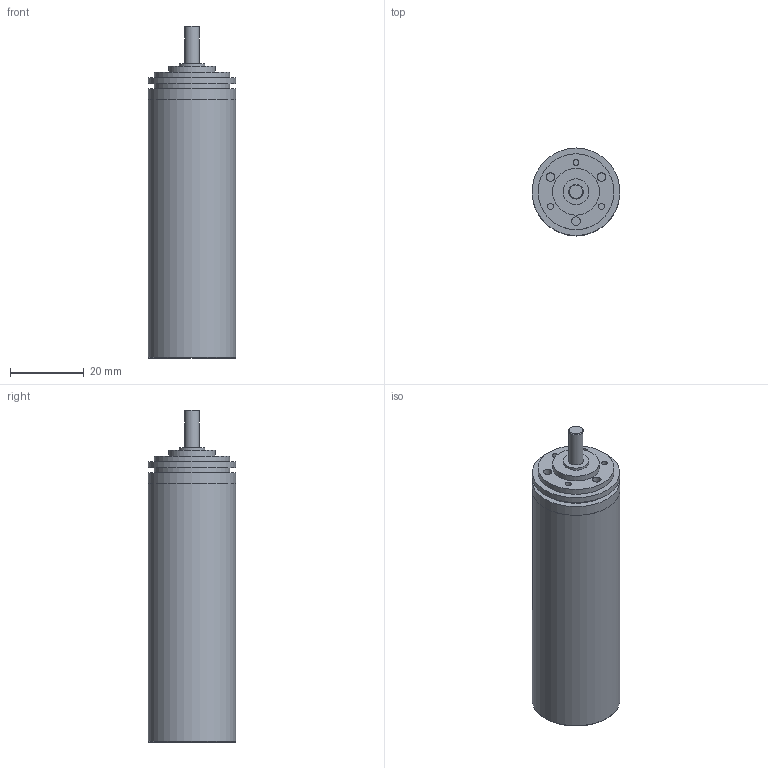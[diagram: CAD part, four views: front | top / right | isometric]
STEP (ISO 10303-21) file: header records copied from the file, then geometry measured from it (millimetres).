
FILE_DESCRIPTION(/* description */ (''),/* implementation_level */ '2;1');
FILE_NAME(/* name */ '22-2K_13.stp',/* time_stamp */ '2016-08-26T11:42:12+02:00',/* author */ ('DR. FRITZ FAULHABER GmbH & Co. KG'),/* organization */ ('DR. FRITZ FAULHABER GmbH & Co. KG'),/* preprocessor_version */ 'ST-DEVELOPER v16',/* originating_system */ 'SIEMENS PLM Software NX 10.0',/* authorisation */ '');
FILE_SCHEMA (('AUTOMOTIVE_DESIGN { 1 0 10303 214 3 1 1 1 }'));
Length unit declared in the file: millimetre
Products named in the file (1): H00000872_A
Bounding box: 23.8 x 23.8 x 90.2 mm (x, y, z)
Volume: 26667.8 mm3; surface area: 8770.7 mm2
Topology: 1 solids, 1 shells, 42 faces, 65 edges, 43 vertices
Faces by surface type: plane 20, cylinder 19, cone 3
Full cylindrical faces by diameter (mm): 1.6 x3, 2.329 x3, 3.5 x1, 4 x1, 4.5 x1, 7 x2, 12.7 x1, 20.63 x2, 22 x1, 23.79 x1, 23.8 x3
Entity records: 858 total; most frequent: DIRECTION 168, CARTESIAN_POINT 125, AXIS2_PLACEMENT_3D 84, EDGE_LOOP 82, ORIENTED_EDGE 82, FACE_BOUND 74, ADVANCED_FACE 42, VERTEX_POINT 41
